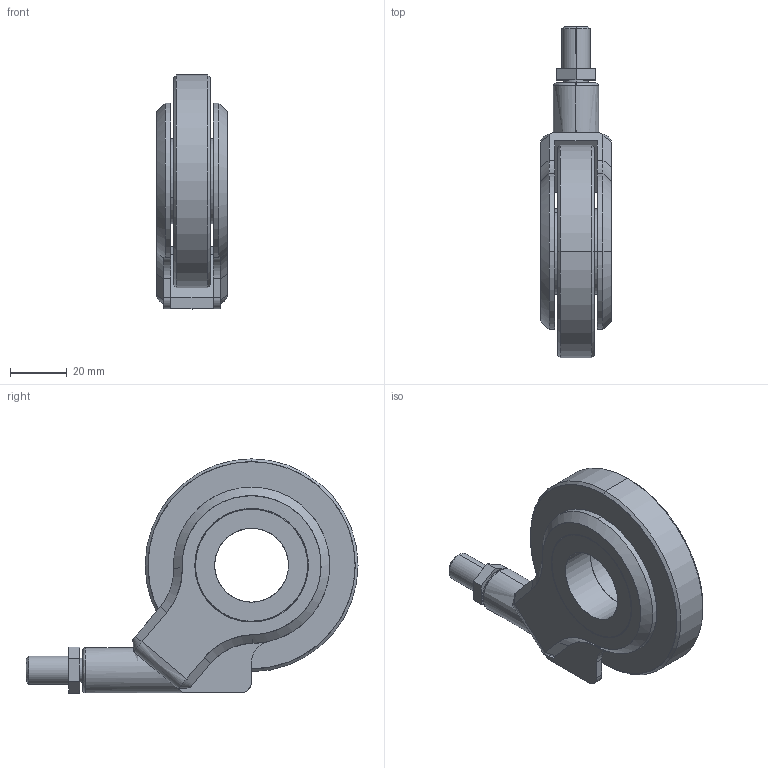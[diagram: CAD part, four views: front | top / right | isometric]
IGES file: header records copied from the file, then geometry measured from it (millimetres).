
Start section: SolidWorks IGES file using analytic representation for surfaces
Bounding box: 25 x 117 x 82.58 mm (x, y, z)
Surface area: 32940.1 mm2 (no closed solid volume)
Topology: 0 solids, 0 shells, 109 faces, 2197 edges, 2197 vertices
Faces by surface type: revolution 61, bspline 48
